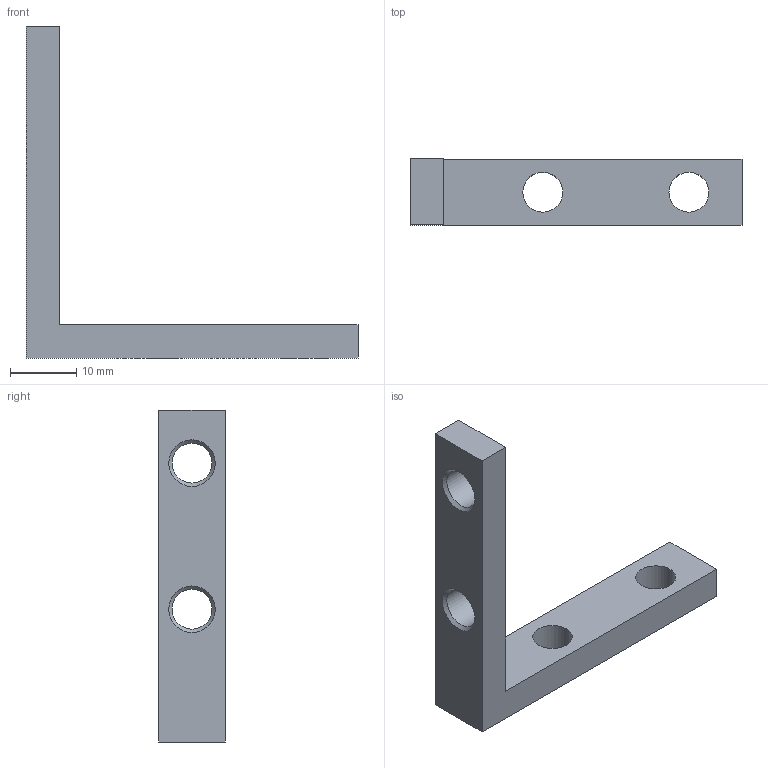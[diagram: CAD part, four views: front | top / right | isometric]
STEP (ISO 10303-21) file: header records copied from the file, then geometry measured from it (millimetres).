
FILE_DESCRIPTION(/* description */ ('Unknown'),/* implementation_level */ '2;1');
FILE_NAME(/* name */ 'DL0660',/* time_stamp */ '2026-09-17T14:45:27+08:00',/* author */ ('Unknown'),/* organization */ ('Unknown'),/* preprocessor_version */ 'ST-DEVELOPER v16.7',/* originating_system */ 'DEX',/* authorisation */ $);
FILE_SCHEMA (('AUTOMOTIVE_DESIGN {1 0 10303 214 3 1 1}'));
Length unit declared in the file: millimetre
Products named in the file (1): AL0660
Bounding box: 50 x 10 x 50 mm (x, y, z)
Volume: 4174.6 mm3; surface area: 3080 mm2
Topology: 1 solids, 1 shells, 16 faces, 44 edges, 30 vertices
Faces by surface type: plane 8, cylinder 4, cone 4
Full cylindrical faces by diameter (mm): 6 x4
Entity records: 574 total; most frequent: DIRECTION 76, CARTESIAN_POINT 71, ORIENTED_EDGE 60, EDGE_LOOP 32, FACE_BOUND 32, EDGE_CURVE 30, AXIS2_PLACEMENT_3D 29, VERTEX_POINT 24
